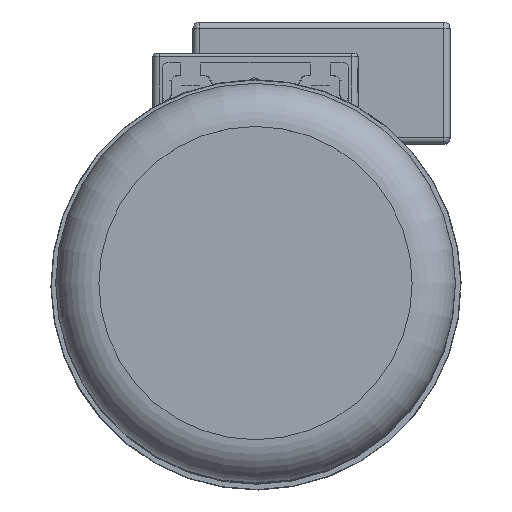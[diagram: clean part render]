
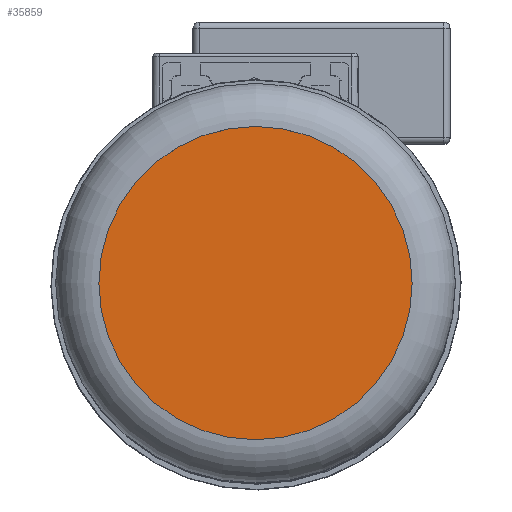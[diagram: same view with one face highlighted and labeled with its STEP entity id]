
A CAD part, top view. The second image highlights one B-rep face of the part: STEP entity #35859.
In plain terms, the highlighted planar face has unit normal (0, 0, 1) as drawn and (0, 0, -1) by its records, which use the part's own axes.
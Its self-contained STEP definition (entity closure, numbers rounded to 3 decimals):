
#283=PLANE('',#40513);
#5485=CIRCLE('',#40514,72.5);
#7813=FACE_OUTER_BOUND('',#10120,.T.);
#10120=EDGE_LOOP('',(#33335));
#16857=VERTEX_POINT('',#92671);
#22350=EDGE_CURVE('',#16857,#16857,#5485,.T.);
#33335=ORIENTED_EDGE('',*,*,#22350,.F.);
#35859=ADVANCED_FACE('',(#7813),#283,.T.);
#40513=AXIS2_PLACEMENT_3D('',#92670,#51154,#51155);
#40514=AXIS2_PLACEMENT_3D('',#92672,#51156,#51157);
#51154=DIRECTION('center_axis',(0.,0.,-1.));
#51155=DIRECTION('ref_axis',(-1.,0.,0.));
#51156=DIRECTION('center_axis',(0.,0.,1.));
#51157=DIRECTION('ref_axis',(1.,0.,0.));
#92670=CARTESIAN_POINT('Origin',(72.5,0.,0.));
#92671=CARTESIAN_POINT('',(-72.5,0.,0.));
#92672=CARTESIAN_POINT('Origin',(0.,0.,0.));
